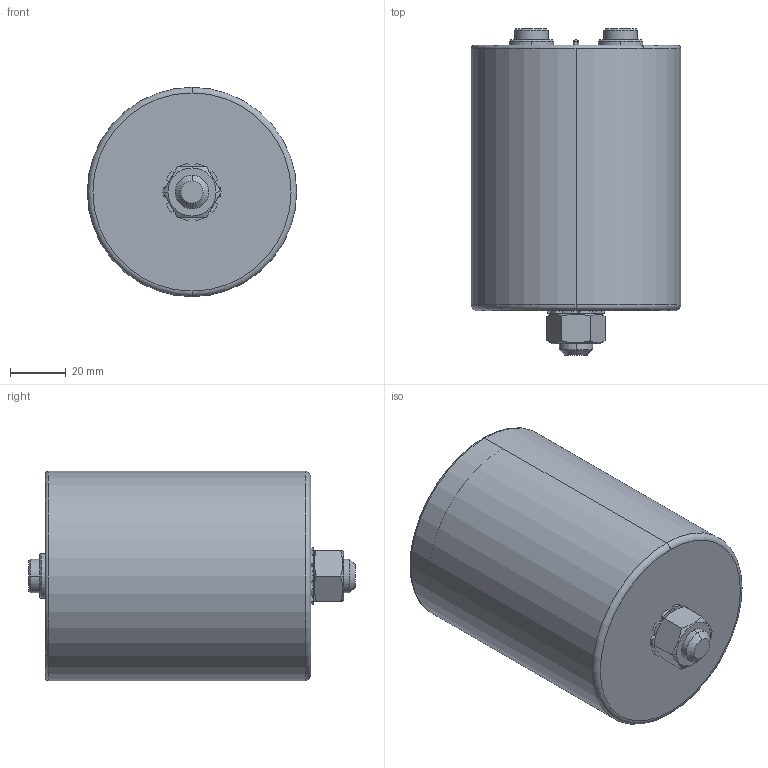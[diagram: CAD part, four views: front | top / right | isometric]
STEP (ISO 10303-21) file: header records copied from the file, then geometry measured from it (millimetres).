
FILE_DESCRIPTION (( 'STEP AP203' ), '1' );
FILE_NAME ('B25690Ax_75x95_101.STEP', '2021-08-30T06:28:53', ( '' ), ( '' ), 'SwSTEP 2.0', 'SolidWorks 2017', '' );
FILE_SCHEMA (( 'CONFIG_CONTROL_DESIGN' ));
Length unit declared in the file: millimetre
Products named in the file (1): B25690Ax_75x95_101
Bounding box: 75 x 117 x 75 mm (x, y, z)
Volume: 74656.6 mm3; surface area: 71923.6 mm2
Topology: 1 solids, 3 shells, 263 faces, 675 edges, 432 vertices
Faces by surface type: plane 145, cylinder 80, cone 28, torus 10
Entity records: 8308 total; most frequent: CARTESIAN_POINT 1807, DIRECTION 1389, ORIENTED_EDGE 1350, EDGE_CURVE 675, AXIS2_PLACEMENT_3D 534, VERTEX_POINT 432, LINE 321, VECTOR 321
